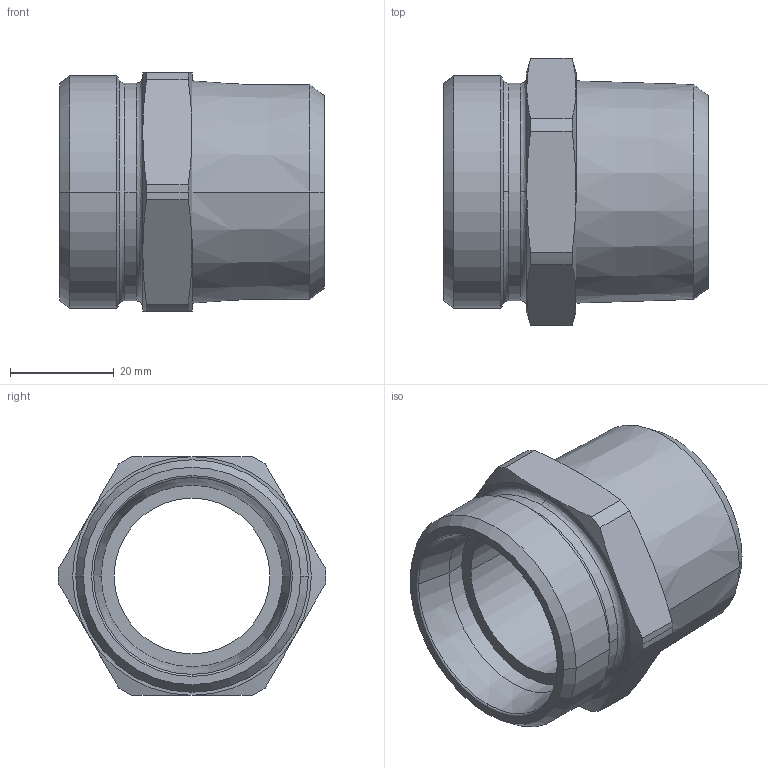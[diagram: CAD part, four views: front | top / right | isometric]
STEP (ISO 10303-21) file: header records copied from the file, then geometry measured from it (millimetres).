
FILE_DESCRIPTION((''),'2;1');
FILE_NAME('101812.stp','2007-10-30T16:15:47',(''),(''),'AutoCAD STEP 2000i','AutoCAD 2000i',', , ');
FILE_SCHEMA(('CONFIG_CONTROL_DESIGN'));
Length unit declared in the file: millimetre
Products named in the file (2): 101812.0; CHIAVE SMUSSATA#0
Assembly tree (1 placements, depth 2):
  101812.0
    CHIAVE SMUSSATA#0
Bounding box: 51 x 51.6 x 46 mm (x, y, z)
Volume: 36826.6 mm3; surface area: 13751.1 mm2
Topology: 1 solids, 1 shells, 59 faces, 143 edges, 89 vertices
Faces by surface type: cone 24, cylinder 16, plane 11, bspline 6, torus 2
Entity records: 2079 total; most frequent: CARTESIAN_POINT 605, DIRECTION 314, ORIENTED_EDGE 286, EDGE_CURVE 143, AXIS2_PLACEMENT_3D 140, VERTEX_POINT 89, CIRCLE 85, EDGE_LOOP 64
